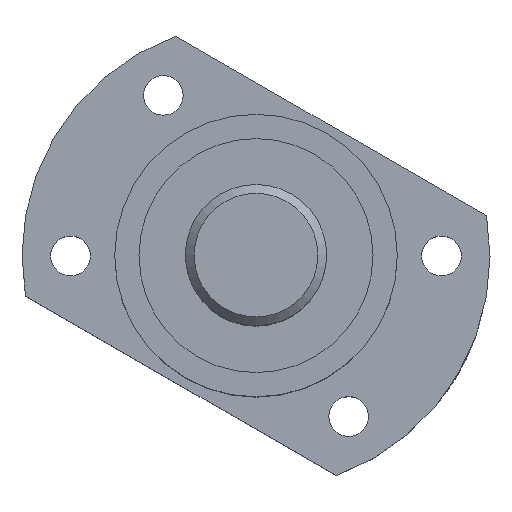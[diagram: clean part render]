
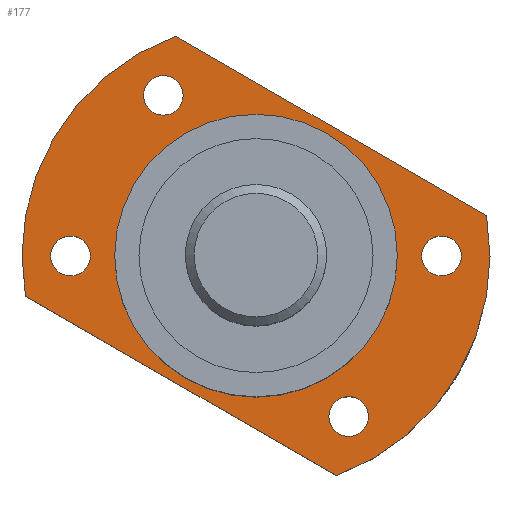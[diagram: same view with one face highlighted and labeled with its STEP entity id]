
A CAD part, top view. The second image highlights one B-rep face of the part: STEP entity #177.
In plain terms, the highlighted planar face has unit normal (0, 0, 1) as drawn and (1, 0, 0) by its records, which use the part's own axes.
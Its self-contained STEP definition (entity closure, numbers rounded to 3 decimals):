
#103=LINE('',#1172,#111);
#104=LINE('',#1176,#112);
#111=VECTOR('',#926,1.);
#112=VECTOR('',#929,1.);
#140=PLANE('',#772);
#177=ADVANCED_FACE('',(#278,#279,#280,#281,#282,#283),#140,.T.);
#278=FACE_BOUND('',#374,.T.);
#279=FACE_BOUND('',#375,.T.);
#280=FACE_BOUND('',#376,.T.);
#281=FACE_BOUND('',#377,.T.);
#282=FACE_BOUND('',#378,.T.);
#283=FACE_BOUND('',#379,.T.);
#374=EDGE_LOOP('',(#476,#477,#478,#479));
#375=EDGE_LOOP('',(#480));
#376=EDGE_LOOP('',(#481));
#377=EDGE_LOOP('',(#482));
#378=EDGE_LOOP('',(#483));
#379=EDGE_LOOP('',(#484));
#476=ORIENTED_EDGE('',*,*,#628,.F.);
#477=ORIENTED_EDGE('',*,*,#629,.T.);
#478=ORIENTED_EDGE('',*,*,#630,.F.);
#479=ORIENTED_EDGE('',*,*,#631,.T.);
#480=ORIENTED_EDGE('',*,*,#632,.T.);
#481=ORIENTED_EDGE('',*,*,#633,.F.);
#482=ORIENTED_EDGE('',*,*,#634,.F.);
#483=ORIENTED_EDGE('',*,*,#635,.T.);
#484=ORIENTED_EDGE('',*,*,#610,.F.);
#554=VERTEX_POINT('',#1117);
#572=VERTEX_POINT('',#1170);
#573=VERTEX_POINT('',#1171);
#574=VERTEX_POINT('',#1173);
#575=VERTEX_POINT('',#1175);
#576=VERTEX_POINT('',#1178);
#577=VERTEX_POINT('',#1180);
#578=VERTEX_POINT('',#1182);
#579=VERTEX_POINT('',#1184);
#610=EDGE_CURVE('',#554,#554,#669,.T.);
#628=EDGE_CURVE('',#572,#573,#687,.T.);
#629=EDGE_CURVE('',#572,#574,#103,.T.);
#630=EDGE_CURVE('',#575,#574,#688,.T.);
#631=EDGE_CURVE('',#575,#573,#104,.T.);
#632=EDGE_CURVE('',#576,#576,#689,.T.);
#633=EDGE_CURVE('',#577,#577,#690,.T.);
#634=EDGE_CURVE('',#578,#578,#691,.T.);
#635=EDGE_CURVE('',#579,#579,#692,.T.);
#669=CIRCLE('',#731,16.);
#687=CIRCLE('',#766,26.5);
#688=CIRCLE('',#767,26.5);
#689=CIRCLE('',#768,2.25);
#690=CIRCLE('',#769,2.25);
#691=CIRCLE('',#770,2.25);
#692=CIRCLE('',#771,2.25);
#731=AXIS2_PLACEMENT_3D('',#1116,#854,#855);
#766=AXIS2_PLACEMENT_3D('',#1169,#924,#925);
#767=AXIS2_PLACEMENT_3D('',#1174,#927,#928);
#768=AXIS2_PLACEMENT_3D('',#1177,#930,#931);
#769=AXIS2_PLACEMENT_3D('',#1179,#932,#933);
#770=AXIS2_PLACEMENT_3D('',#1181,#934,#935);
#771=AXIS2_PLACEMENT_3D('',#1183,#936,#937);
#772=AXIS2_PLACEMENT_3D('',#1185,#938,#939);
#854=DIRECTION('',(1.,0.,0.));
#855=DIRECTION('',(0.,1.,0.));
#924=DIRECTION('',(-1.,0.,0.));
#925=DIRECTION('',(0.,1.,0.));
#926=DIRECTION('',(0.,0.5,0.866));
#927=DIRECTION('',(-1.,0.,0.));
#928=DIRECTION('',(0.,1.,0.));
#929=DIRECTION('',(0.,-0.5,-0.866));
#930=DIRECTION('',(-1.,0.,0.));
#931=DIRECTION('',(0.,0.866,-0.5));
#932=DIRECTION('',(1.,0.,0.));
#933=DIRECTION('',(0.,0.866,-0.5));
#934=DIRECTION('',(1.,0.,0.));
#935=DIRECTION('',(0.,0.866,-0.5));
#936=DIRECTION('',(-1.,0.,0.));
#937=DIRECTION('',(0.,0.866,-0.5));
#938=DIRECTION('',(1.,0.,0.));
#939=DIRECTION('',(0.,0.866,-0.5));
#1116=CARTESIAN_POINT('',(132.82,54.969,0.));
#1117=CARTESIAN_POINT('',(132.82,70.969,0.));
#1169=CARTESIAN_POINT('',(132.82,54.969,0.));
#1170=CARTESIAN_POINT('',(132.82,59.527,-26.105));
#1171=CARTESIAN_POINT('',(132.82,30.082,-9.105));
#1172=CARTESIAN_POINT('',(132.82,69.691,-8.5));
#1173=CARTESIAN_POINT('',(132.82,79.856,9.105));
#1174=CARTESIAN_POINT('',(132.82,54.969,0.));
#1175=CARTESIAN_POINT('',(132.82,50.411,26.105));
#1176=CARTESIAN_POINT('',(132.82,40.247,8.5));
#1177=CARTESIAN_POINT('',(132.82,73.155,10.5));
#1178=CARTESIAN_POINT('',(132.82,75.104,9.375));
#1179=CARTESIAN_POINT('',(132.82,54.969,21.));
#1180=CARTESIAN_POINT('',(132.82,56.918,19.875));
#1181=CARTESIAN_POINT('',(132.82,54.969,-21.));
#1182=CARTESIAN_POINT('',(132.82,56.918,-22.125));
#1183=CARTESIAN_POINT('',(132.82,36.782,-10.5));
#1184=CARTESIAN_POINT('',(132.82,38.731,-11.625));
#1185=CARTESIAN_POINT('',(132.82,78.785,-13.75));
